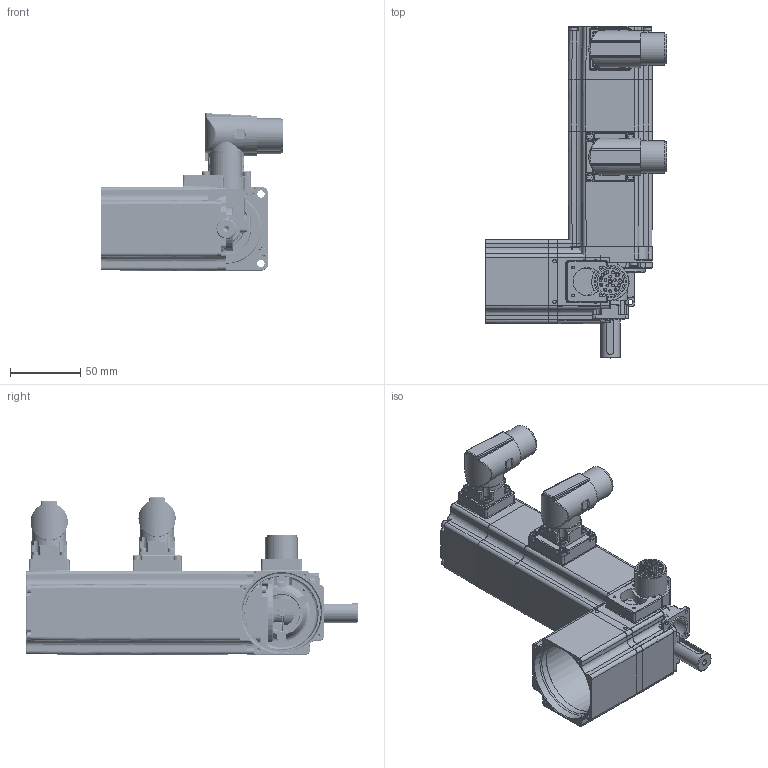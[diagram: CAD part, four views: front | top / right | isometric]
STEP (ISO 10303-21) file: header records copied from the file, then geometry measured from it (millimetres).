
FILE_DESCRIPTION( ( 'Unknown' ), '1' );
FILE_NAME( 'K:/121010-AL Files 3D Step con chiavetta/Q0A933_1,3.stp', 'Unknown', ( 'Unknown' ), ( 'Unknown' ), 'PSStep 14.0', 'Unknown', ' ' );
FILE_SCHEMA( ( 'AUTOMOTIVE_DESIGN { 1 0 10303 214 1 1 1 1 }' ) );
Length unit declared in the file: millimetre
Products named in the file (38): Assem1; N33040; Anello-elastico-chiuso  32; A-Ela  15; B49003; B07010; N09034; LI-PIA   5x5 x 25; N35210; N45204; N11035; N27023; CUSC_15_32_9_6002_ZZ; CUSC_10_26_8_6000_ZZ; CN M23 PAN-POT BEDC 110 4+4 pin 90°o SpTcR; Vite a brugola testa cil 8,8 -  M  3 x 18; Vite a brugola testa cil 8,8 -  M  3 x 18-oa0; Vite a brugola testa cil 8,8 -  M  3 x 18-oa1; Vite a brugola testa cil 8,8 -  M  3 x 18-oa2; Vite a brugola testa cil 8,8 -  M  3 x 12; Vite a brugola testa cil 8,8 -  M  3 x 40; Vite a brugola testa cil 8,8 -  M  3 x 40-oa3; Vite a brugola testa cil 8,8 -  M  3 x 40-oa4; Vite a brugola testa cil 8,8 -  M  3 x 40-oa5; Vite a brugola testa cil 8,8 -  M 2,5 x 8; CN M23 PAN-SEG AEDC 139 17 pin 90°o SpTcR; N01120
Bounding box: 129.6 x 236.89 x 112.46 mm (x, y, z)
Volume: 593728.4 mm3; surface area: 315483.3 mm2
Topology: 86 solids, 90 shells, 3615 faces, 8867 edges, 5635 vertices
Faces by surface type: plane 1655, cylinder 987, cone 319, bspline 290, torus 272, extrusion 62, sphere 30
Full cylindrical faces by diameter (mm): 1.7 x4, 2 x50, 2.013 x10, 2.459 x33, 2.5 x25, 2.7 x16, 2.9 x3, 3 x35, 3.5 x36, 4.134 x2, 4.7 x9, 5.5 x24, 6 x8, 8 x2, 10 x6, 10.001 x2, 14 x2, 14.3 x2, 15 x6, 15.12 x8, 16 x4, 17 x4, 19 x4, 19.8 x4, 20 x8, 20.44 x8, 20.88 x8, 21.3 x12, 21.51 x6, 23 x4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
Entity records: 68397 total; most frequent: CARTESIAN_POINT 18909, DIRECTION 8033, ORIENTED_EDGE 7586, EDGE_CURVE 3793, AXIS2_PLACEMENT_3D 3021, VERTEX_POINT 2588, EDGE_LOOP 2246, VECTOR 1991
